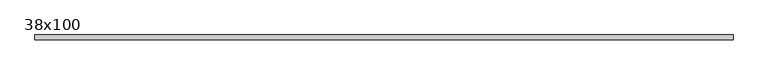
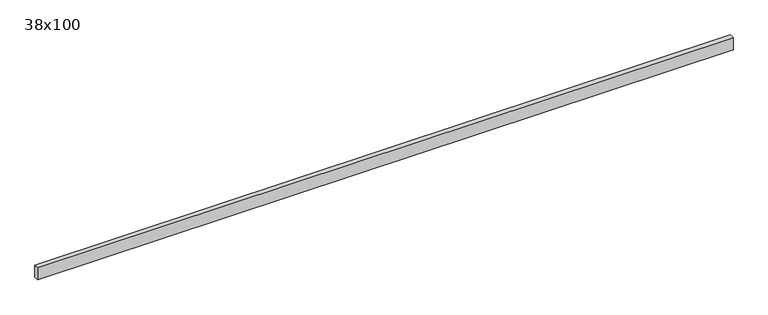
"""IFC4 building model written with IfcOpenShell, lengths in millimetres: beam geometry, Poutre - Bois de construction de dimensions courantes : 38x100."""

import ifcopenshell
import ifcopenshell.guid

model = None  # the IFC model being written
_history = None  # IfcOwnerHistory: only IFC2X3 demands one
_inside = {}  # id of a spatial element -> (the spatial element, [elements in it])
_under = {}  # id of a project, library or spatial element -> (it, [spatial elements below it])
_declared = {}  # id of a project -> (the project, [libraries it declares])
_typed = {}  # id of a type object -> (the type object, [elements of that type])
_made_of = {}  # id of a material, layer set ... -> (it, [elements and type objects made of it])


def new_model(schema):
    """Start an empty IFC model of exactly this schema.

    Asked for "IFC4X3", IfcOpenShell would pick the latest addendum, in which some entities
    have other attributes; the version numbers below select the first issue.
    IFC2X3 requires an IfcOwnerHistory on every rooted entity: one is made here for all.
    """
    global model, _history
    if schema == "IFC4X3":
        model = ifcopenshell.file(schema_version=(4, 3, 0, 0))
    else:
        model = ifcopenshell.file(schema=schema)
    _inside.clear()
    _under.clear()
    _declared.clear()
    _typed.clear()
    _made_of.clear()
    _history = None
    if model.schema == "IFC2X3":
        org = make("IfcOrganization", Name="unknown")
        user = make(
            "IfcPersonAndOrganization",
            ThePerson=make("IfcPerson", FamilyName="unknown"),
            TheOrganization=org,
        )
        app = make(
            "IfcApplication",
            ApplicationDeveloper=org,
            Version="unknown",
            ApplicationFullName="unknown",
            ApplicationIdentifier="unknown",
        )
        _history = make(
            "IfcOwnerHistory",
            OwningUser=user,
            OwningApplication=app,
            ChangeAction="ADDED",
            CreationDate=0,
        )
    return model


def make(cls, **values):
    """One entity of the class cls with the attributes given. An attribute that is None is left unset."""
    return model.create_entity(
        cls, **{name: value for name, value in values.items() if value is not None}
    )


def rooted(cls, **values):
    """An entity with a GlobalId (a new one), such as an element, a storey or a relation."""
    return make(cls, GlobalId=ifcopenshell.guid.new(), OwnerHistory=_history, **values)


def si_unit(unit_type, name, prefix=None):
    """IfcSIUnit, for example si_unit("LENGTHUNIT", "METRE", prefix="MILLI")."""
    return make("IfcSIUnit", UnitType=unit_type, Prefix=prefix, Name=name)


def assignment(units):
    """IfcUnitAssignment: the units of a project."""
    return None if units is None else make("IfcUnitAssignment", Units=units)


def point(xyz):
    """IfcCartesianPoint."""
    return None if xyz is None else make("IfcCartesianPoint", Coordinates=xyz)


def direction(xyz):
    """IfcDirection."""
    return None if xyz is None else make("IfcDirection", DirectionRatios=xyz)


def frame(location, z_axis=None, x_axis=None):
    """IfcAxis2Placement3D, a coordinate frame: its origin and axes. An axis left out is left unset."""
    return make(
        "IfcAxis2Placement3D",
        Location=point(location),
        Axis=direction(z_axis),
        RefDirection=direction(x_axis),
    )


def origin():
    """The frame at (0, 0, 0) with its axes left unset."""
    return frame((0.0, 0.0, 0.0))


def place(relative_to, where):
    """IfcLocalPlacement: puts the frame where relative to a parent placement (None: the world)."""
    return make(
        "IfcLocalPlacement", PlacementRelTo=relative_to, RelativePlacement=where
    )


def context(
    kind, dimensions, precision=None, world=None, true_north=None, identifier=None
):
    """IfcGeometricRepresentationContext, for example the 3D "Model" context."""
    return make(
        "IfcGeometricRepresentationContext",
        ContextIdentifier=identifier,
        ContextType=kind,
        CoordinateSpaceDimension=dimensions,
        Precision=precision,
        WorldCoordinateSystem=world,
        TrueNorth=true_north,
    )


def project(units=None, contexts=None):
    """IfcProject with its units and contexts."""
    return rooted(
        "IfcProject",
        Name="project",
        RepresentationContexts=contexts,
        UnitsInContext=assignment(units),
    )


def spatial(cls, under=None, at=None, **own):
    """A site, building, storey or space (cls), placed at a placement, below another one or the project."""
    s = rooted(cls, ObjectPlacement=at, **own)
    if under is not None:
        _under.setdefault(under.id(), (under, []))[1].append(s)
    return s


def polyline(points):
    """IfcPolyline through the points."""
    return make("IfcPolyline", Points=[point(p) for p in points])


def outline(outer, holes=None, kind="AREA"):
    """IfcArbitraryClosedProfileDef: a profile drawn as a closed curve; with holes, ...WithVoids."""
    if holes is None:
        return make("IfcArbitraryClosedProfileDef", ProfileType=kind, OuterCurve=outer)
    return make(
        "IfcArbitraryProfileDefWithVoids",
        ProfileType=kind,
        OuterCurve=outer,
        InnerCurves=holes,
    )


def extrude(swept, where, along, depth):
    """IfcExtrudedAreaSolid: the profile swept, set in the frame where, extruded along a direction by depth."""
    return make(
        "IfcExtrudedAreaSolid",
        SweptArea=swept,
        Position=where,
        ExtrudedDirection=direction(along),
        Depth=depth,
    )


def shape(context_of_items, identifier, shape_type, items):
    """IfcShapeRepresentation: the items that make up one representation, for example the "Body"."""
    return make(
        "IfcShapeRepresentation",
        ContextOfItems=context_of_items,
        RepresentationIdentifier=identifier,
        RepresentationType=shape_type,
        Items=items,
    )


def source(mapping_origin, context_of_items, identifier, shape_type, items):
    """IfcRepresentationMap: a shape defined once, which mapped items show again and again."""
    return make(
        "IfcRepresentationMap",
        MappingOrigin=mapping_origin,
        MappedRepresentation=shape(context_of_items, identifier, shape_type, items),
    )


def transform(
    local_origin,
    x_axis=None,
    y_axis=None,
    z_axis=None,
    scale=None,
    scale2=None,
    scale3=None,
    uniform=True,
):
    """IfcCartesianTransformationOperator3D, or its non-uniform kind. x_axis, y_axis, z_axis: its Axis1, 2, 3."""
    if uniform:
        return make(
            "IfcCartesianTransformationOperator3D",
            Axis1=direction(x_axis),
            Axis2=direction(y_axis),
            LocalOrigin=point(local_origin),
            Scale=scale,
            Axis3=direction(z_axis),
        )
    return make(
        "IfcCartesianTransformationOperator3DnonUniform",
        Axis1=direction(x_axis),
        Axis2=direction(y_axis),
        LocalOrigin=point(local_origin),
        Scale=scale,
        Axis3=direction(z_axis),
        Scale2=scale2,
        Scale3=scale3,
    )


def mapped(mapping_source, mapping_target):
    """IfcMappedItem: shows the shape of a source again, moved by a transform."""
    return make(
        "IfcMappedItem", MappingSource=mapping_source, MappingTarget=mapping_target
    )


def made_of(thing, what):
    """Note that an element or type object is made of a material, layer set ...; save() writes the relation."""
    if what is not None:
        _made_of.setdefault(what.id(), (what, []))[1].append(thing)
    return thing


def element(
    cls,
    number,
    at=None,
    inside=None,
    cuts=None,
    type_object=None,
    material=None,
    context=None,
    identifier="Body",
    shape_type=None,
    held_by="IfcProductDefinitionShape",
    body=None,
    shapes=None,
    **own,
):
    """One element of the class cls, such as IfcWall. Its Tag is "e" and its number.

    at: its placement. inside: the storey or other place that contains it. cuts: it is an
    opening in that element (IfcRelVoidsElement). A single representation is given by context,
    identifier, shape_type and body (its items); several are given by shapes. held_by: the class
    of the entity that holds the representations. save() writes the other relations.
    """
    e = rooted(cls, Tag="e%d" % number, ObjectPlacement=at, **own)
    if body is not None:
        shapes = [shape(context, identifier, shape_type, body)]
    if shapes is not None:
        e.Representation = make(held_by, Representations=shapes)
    if inside is not None:
        _inside.setdefault(inside.id(), (inside, []))[1].append(e)
    if cuts is not None:
        rooted(
            "IfcRelVoidsElement", RelatingBuildingElement=cuts, RelatedOpeningElement=e
        )
    if type_object is not None:
        _typed.setdefault(type_object.id(), (type_object, []))[1].append(e)
    return made_of(e, material)


def aggregate(whole, parts):
    """IfcRelAggregates: a whole, such as a stair, and the parts it consists of."""
    return rooted("IfcRelAggregates", RelatingObject=whole, RelatedObjects=parts)


def save(model, path):
    """Write the relations noted so far, then the file.

    IfcRelAggregates (storeys below a building ...), IfcRelContainedInSpatialStructure (elements
    in a storey), IfcRelDefinesByType, IfcRelAssociatesMaterial and IfcRelDeclares: one each for
    every whole, place, type object, material and project.
    """
    for whole, parts in _under.values():
        aggregate(whole, parts)
    for where, things in _inside.values():
        rooted(
            "IfcRelContainedInSpatialStructure",
            RelatedElements=things,
            RelatingStructure=where,
        )
    for kind, things in _typed.values():
        rooted("IfcRelDefinesByType", RelatedObjects=things, RelatingType=kind)
    for what, things in _made_of.values():
        rooted("IfcRelAssociatesMaterial", RelatedObjects=things, RelatingMaterial=what)
    for by, libraries in _declared.values():
        rooted("IfcRelDeclares", RelatingContext=by, RelatedDefinitions=libraries)
    model.write(path)


def beam_38x100_d19e5eed(model_context):
    return source(origin(), model_context, "Body", "SweptSolid", [
        extrude(outline(polyline([(2762.0, 19.05), (2762.0, -19.05), (-2762.0, -19.05), (-2762.0, 19.05), (2762.0, 19.05)])), frame((0.0, 0.0, -50.0), z_axis=(0.0, 0.0, 1.0), x_axis=(1.0, 0.0, 0.0)), (0.0, 0.0, 1.0), 100.0),
    ])


if __name__ == "__main__":
    model = new_model("IFC4")
    model_context = context("Model", 3, world=origin())
    ifc_project = project(units=[si_unit("LENGTHUNIT", "METRE", prefix="MILLI")], contexts=[model_context])
    site = spatial("IfcSite", under=ifc_project)
    building = spatial("IfcBuilding", under=site)
    placement = place(None, origin())
    beam_38x100_shape = beam_38x100_d19e5eed(model_context)
    element("IfcBeam", 1, ObjectType="Poutre - Bois de construction de dimensions courantes : 38x100", at=placement, inside=building, context=model_context, shape_type="MappedRepresentation", body=[
        mapped(beam_38x100_shape, transform((0.0, 0.0, 0.0), x_axis=(1.0, 0.0, 0.0), y_axis=(0.0, 1.0, 0.0), z_axis=(0.0, 0.0, 1.0))),
    ])
    save(model, "model.ifc")
